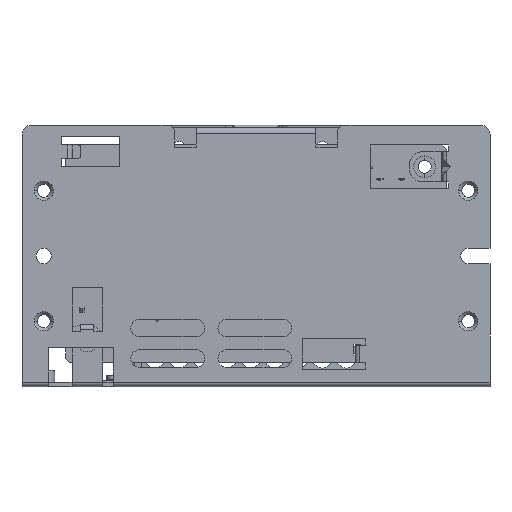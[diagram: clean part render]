
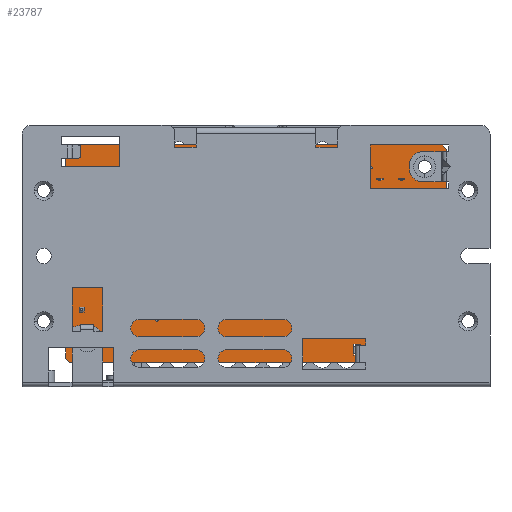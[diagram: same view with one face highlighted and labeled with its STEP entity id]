
A CAD part, front view. The second image highlights one B-rep face of the part: STEP entity #23787.
In plain terms, the highlighted planar face has unit normal (0, -1, 0) as drawn and (0, 0, -1) by its records, which use the part's own axes.
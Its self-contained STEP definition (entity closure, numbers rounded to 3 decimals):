
#22508=DIRECTION('',(-1.,0.,0.));
#22509=VECTOR('',#22508,85.5);
#22510=CARTESIAN_POINT('',(42.75,25.,-1.6));
#22511=LINE('',#22510,#22509);
#22512=DIRECTION('',(-0.707,-0.707,0.));
#22513=VECTOR('',#22512,1.414);
#22514=CARTESIAN_POINT('',(-42.75,25.,-1.6));
#22515=LINE('',#22514,#22513);
#22516=DIRECTION('',(0.,-1.,0.));
#22517=VECTOR('',#22516,3.9);
#22518=CARTESIAN_POINT('',(-43.75,24.,-1.6));
#22519=LINE('',#22518,#22517);
#22520=DIRECTION('',(1.,0.,0.));
#22521=VECTOR('',#22520,0.8);
#22522=CARTESIAN_POINT('',(-43.75,20.1,-1.6));
#22523=LINE('',#22522,#22521);
#22524=DIRECTION('',(0.,-1.,0.));
#22525=VECTOR('',#22524,3.2);
#22526=CARTESIAN_POINT('',(-42.95,20.1,-1.6));
#22527=LINE('',#22526,#22525);
#22528=DIRECTION('',(-1.,0.,0.));
#22529=VECTOR('',#22528,0.8);
#22530=CARTESIAN_POINT('',(-42.95,16.9,-1.6));
#22531=LINE('',#22530,#22529);
#22532=DIRECTION('',(0.,-1.,0.));
#22533=VECTOR('',#22532,40.9);
#22534=CARTESIAN_POINT('',(-43.75,16.9,-1.6));
#22535=LINE('',#22534,#22533);
#22536=DIRECTION('',(0.707,-0.707,0.));
#22537=VECTOR('',#22536,1.414);
#22538=CARTESIAN_POINT('',(-43.75,-24.,-1.6));
#22539=LINE('',#22538,#22537);
#22540=DIRECTION('',(1.,0.,0.));
#22541=VECTOR('',#22540,85.5);
#22542=CARTESIAN_POINT('',(-42.75,-25.,-1.6));
#22543=LINE('',#22542,#22541);
#22544=DIRECTION('',(0.707,0.707,0.));
#22545=VECTOR('',#22544,1.414);
#22546=CARTESIAN_POINT('',(42.75,-25.,-1.6));
#22547=LINE('',#22546,#22545);
#22548=DIRECTION('',(0.,1.,0.));
#22549=VECTOR('',#22548,48.);
#22550=CARTESIAN_POINT('',(43.75,-24.,-1.6));
#22551=LINE('',#22550,#22549);
#22552=DIRECTION('',(-0.707,0.707,0.));
#22553=VECTOR('',#22552,1.414);
#22554=CARTESIAN_POINT('',(43.75,24.,-1.6));
#22555=LINE('',#22554,#22553);
#22556=DIRECTION('',(0.,1.,0.));
#22557=VECTOR('',#22556,2.5);
#22558=CARTESIAN_POINT('',(24.,20.75,-1.6));
#22559=LINE('',#22558,#22557);
#22560=DIRECTION('',(1.,0.,0.));
#22561=VECTOR('',#22560,1.5);
#22562=CARTESIAN_POINT('',(22.5,20.75,-1.6));
#22563=LINE('',#22562,#22561);
#22564=DIRECTION('',(0.,-1.,0.));
#22565=VECTOR('',#22564,2.5);
#22566=CARTESIAN_POINT('',(22.5,23.25,-1.6));
#22567=LINE('',#22566,#22565);
#22568=DIRECTION('',(-1.,0.,0.));
#22569=VECTOR('',#22568,1.5);
#22570=CARTESIAN_POINT('',(24.,23.25,-1.6));
#22571=LINE('',#22570,#22569);
#22572=CARTESIAN_POINT('',(-38.75,20.,-1.6));
#22573=DIRECTION('',(0.,0.,1.));
#22574=DIRECTION('',(1.,0.,0.));
#22575=AXIS2_PLACEMENT_3D('',#22572,#22573,#22574);
#22577=CARTESIAN_POINT('',(-38.75,20.,-1.6));
#22578=DIRECTION('',(0.,0.,1.));
#22579=DIRECTION('',(-1.,0.,0.));
#22580=AXIS2_PLACEMENT_3D('',#22577,#22578,#22579);
#22582=CARTESIAN_POINT('',(38.75,-20.,-1.6));
#22583=DIRECTION('',(0.,0.,1.));
#22584=DIRECTION('',(1.,0.,0.));
#22585=AXIS2_PLACEMENT_3D('',#22582,#22583,#22584);
#22587=CARTESIAN_POINT('',(38.75,-20.,-1.6));
#22588=DIRECTION('',(0.,0.,1.));
#22589=DIRECTION('',(-1.,0.,0.));
#22590=AXIS2_PLACEMENT_3D('',#22587,#22588,#22589);
#23212=CARTESIAN_POINT('',(42.75,25.,-1.6));
#23213=CARTESIAN_POINT('',(-42.75,25.,-1.6));
#23214=VERTEX_POINT('',#23212);
#23215=VERTEX_POINT('',#23213);
#23216=CARTESIAN_POINT('',(-43.75,24.,-1.6));
#23217=VERTEX_POINT('',#23216);
#23218=CARTESIAN_POINT('',(-43.75,20.1,-1.6));
#23219=VERTEX_POINT('',#23218);
#23220=CARTESIAN_POINT('',(-42.95,20.1,-1.6));
#23221=VERTEX_POINT('',#23220);
#23222=CARTESIAN_POINT('',(-42.95,16.9,-1.6));
#23223=VERTEX_POINT('',#23222);
#23224=CARTESIAN_POINT('',(-43.75,16.9,-1.6));
#23225=VERTEX_POINT('',#23224);
#23226=CARTESIAN_POINT('',(-43.75,-24.,-1.6));
#23227=VERTEX_POINT('',#23226);
#23228=CARTESIAN_POINT('',(-42.75,-25.,-1.6));
#23229=VERTEX_POINT('',#23228);
#23230=CARTESIAN_POINT('',(42.75,-25.,-1.6));
#23231=VERTEX_POINT('',#23230);
#23232=CARTESIAN_POINT('',(43.75,-24.,-1.6));
#23233=VERTEX_POINT('',#23232);
#23234=CARTESIAN_POINT('',(43.75,24.,-1.6));
#23235=VERTEX_POINT('',#23234);
#23244=CARTESIAN_POINT('',(24.,20.75,-1.6));
#23245=CARTESIAN_POINT('',(24.,23.25,-1.6));
#23246=VERTEX_POINT('',#23244);
#23247=VERTEX_POINT('',#23245);
#23248=CARTESIAN_POINT('',(22.5,23.25,-1.6));
#23249=VERTEX_POINT('',#23248);
#23250=CARTESIAN_POINT('',(22.5,20.75,-1.6));
#23251=VERTEX_POINT('',#23250);
#23260=CARTESIAN_POINT('',(-37.,20.,-1.6));
#23261=CARTESIAN_POINT('',(-40.5,20.,-1.6));
#23262=VERTEX_POINT('',#23260);
#23263=VERTEX_POINT('',#23261);
#23264=CARTESIAN_POINT('',(40.5,-20.,-1.6));
#23265=CARTESIAN_POINT('',(37.,-20.,-1.6));
#23266=VERTEX_POINT('',#23264);
#23267=VERTEX_POINT('',#23265);
#23746=CARTESIAN_POINT('',(0.,0.,-1.6));
#23747=DIRECTION('',(0.,0.,1.));
#23748=DIRECTION('',(1.,0.,0.));
#23749=AXIS2_PLACEMENT_3D('',#23746,#23747,#23748);
#23750=PLANE('',#23749);
#23751=ORIENTED_EDGE('',*,*,#23586,.T.);
#23752=ORIENTED_EDGE('',*,*,#23601,.T.);
#23753=ORIENTED_EDGE('',*,*,#23615,.T.);
#23754=ORIENTED_EDGE('',*,*,#23629,.T.);
#23755=ORIENTED_EDGE('',*,*,#23643,.T.);
#23756=ORIENTED_EDGE('',*,*,#23657,.T.);
#23757=ORIENTED_EDGE('',*,*,#23671,.T.);
#23758=ORIENTED_EDGE('',*,*,#23685,.T.);
#23759=ORIENTED_EDGE('',*,*,#23699,.T.);
#23760=ORIENTED_EDGE('',*,*,#23713,.T.);
#23761=ORIENTED_EDGE('',*,*,#23727,.T.);
#23762=ORIENTED_EDGE('',*,*,#23740,.T.);
#23763=EDGE_LOOP('',(#23751,#23752,#23753,#23754,#23755,#23756,#23757,#23758,
#23759,#23760,#23761,#23762));
#23764=FACE_OUTER_BOUND('',#23763,.F.);
#23766=ORIENTED_EDGE('',*,*,#23765,.F.);
#23768=ORIENTED_EDGE('',*,*,#23767,.F.);
#23770=ORIENTED_EDGE('',*,*,#23769,.F.);
#23772=ORIENTED_EDGE('',*,*,#23771,.F.);
#23773=EDGE_LOOP('',(#23766,#23768,#23770,#23772));
#23774=FACE_BOUND('',#23773,.F.);
#23776=ORIENTED_EDGE('',*,*,#23775,.F.);
#23778=ORIENTED_EDGE('',*,*,#23777,.F.);
#23779=EDGE_LOOP('',(#23776,#23778));
#23780=FACE_BOUND('',#23779,.F.);
#23782=ORIENTED_EDGE('',*,*,#23781,.F.);
#23784=ORIENTED_EDGE('',*,*,#23783,.F.);
#23785=EDGE_LOOP('',(#23782,#23784));
#23786=FACE_BOUND('',#23785,.F.);
#22576=CIRCLE('',#22575,1.75);
#22581=CIRCLE('',#22580,1.75);
#22586=CIRCLE('',#22585,1.75);
#22591=CIRCLE('',#22590,1.75);
#23586=EDGE_CURVE('',#23214,#23215,#22511,.T.);
#23601=EDGE_CURVE('',#23215,#23217,#22515,.T.);
#23615=EDGE_CURVE('',#23217,#23219,#22519,.T.);
#23629=EDGE_CURVE('',#23219,#23221,#22523,.T.);
#23643=EDGE_CURVE('',#23221,#23223,#22527,.T.);
#23657=EDGE_CURVE('',#23223,#23225,#22531,.T.);
#23671=EDGE_CURVE('',#23225,#23227,#22535,.T.);
#23685=EDGE_CURVE('',#23227,#23229,#22539,.T.);
#23699=EDGE_CURVE('',#23229,#23231,#22543,.T.);
#23713=EDGE_CURVE('',#23231,#23233,#22547,.T.);
#23727=EDGE_CURVE('',#23233,#23235,#22551,.T.);
#23740=EDGE_CURVE('',#23235,#23214,#22555,.T.);
#23765=EDGE_CURVE('',#23246,#23247,#22559,.T.);
#23767=EDGE_CURVE('',#23251,#23246,#22563,.T.);
#23769=EDGE_CURVE('',#23249,#23251,#22567,.T.);
#23771=EDGE_CURVE('',#23247,#23249,#22571,.T.);
#23775=EDGE_CURVE('',#23262,#23263,#22576,.T.);
#23777=EDGE_CURVE('',#23263,#23262,#22581,.T.);
#23781=EDGE_CURVE('',#23266,#23267,#22586,.T.);
#23783=EDGE_CURVE('',#23267,#23266,#22591,.T.);
#23787=ADVANCED_FACE('',(#23764,#23774,#23780,#23786),#23750,.F.);
